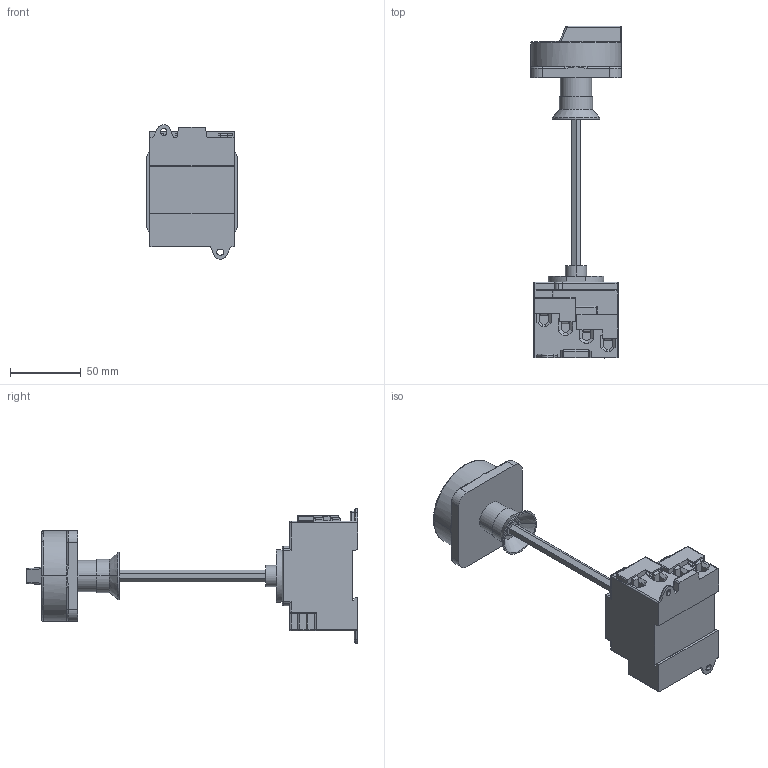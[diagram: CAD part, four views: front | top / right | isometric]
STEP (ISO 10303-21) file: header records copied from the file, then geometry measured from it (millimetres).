
FILE_DESCRIPTION (( 'STEP AP203' ), '1' );
FILE_NAME ('LS32 VZVH4 A4U.STEP', '2014-03-18T10:23:05', ( 'edv' ), ( '' ), 'SwSTEP 2.0', 'SolidWorks 2014', '' );
FILE_SCHEMA (( 'CONFIG_CONTROL_DESIGN' ));
Length unit declared in the file: millimetre
Products named in the file (4): Dummie Griff SV4 TKZ; Dummie Schalterkörper VZV Standard; LSV-B1; LS32 VZVH4 A4U
Assembly tree (4 placements, depth 2):
  LS32 VZVH4 A4U
    Dummie Griff SV4 TKZ
    Dummie Schalterkörper VZV Standard
    LSV-B1  x2
Bounding box: 64 x 234.7 x 94.99 mm (x, y, z)
Volume: 300676 mm3; surface area: 59333.3 mm2
Topology: 4 solids, 5 shells, 502 faces, 1267 edges, 745 vertices
Faces by surface type: plane 278, cylinder 145, torus 30, sphere 30, bspline 10, cone 9
Entity records: 14081 total; most frequent: CARTESIAN_POINT 2847, DIRECTION 2301, ORIENTED_EDGE 2234, EDGE_CURVE 1117, AXIS2_PLACEMENT_3D 793, LINE 715, VECTOR 715, VERTEX_POINT 675
